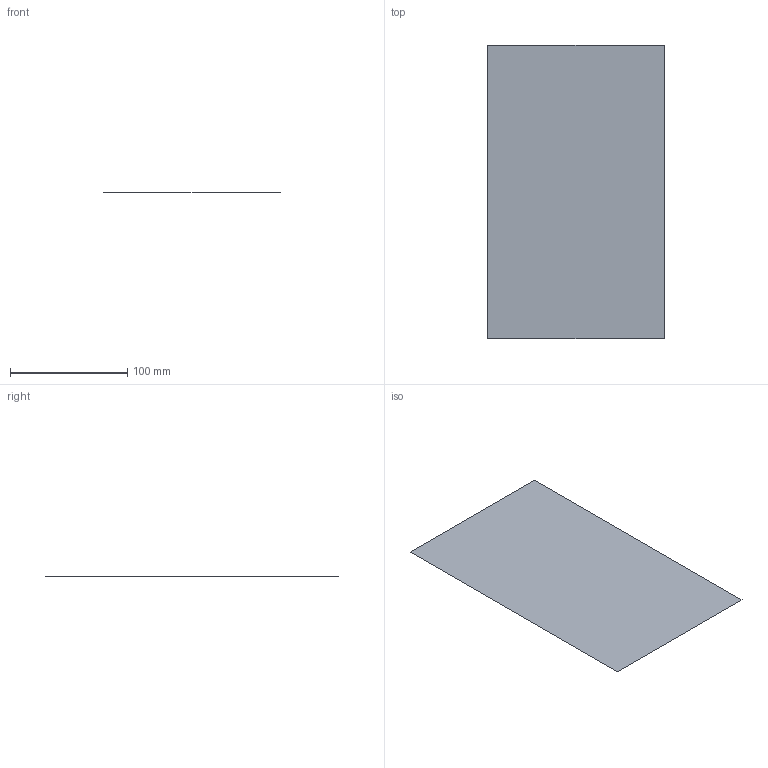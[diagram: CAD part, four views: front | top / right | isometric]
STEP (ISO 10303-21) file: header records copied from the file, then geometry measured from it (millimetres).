
FILE_DESCRIPTION (( 'STEP AP203' ), '1' );
FILE_NAME ('26.1.STEP', '2025-11-17T23:02:06', ( '' ), ( '' ), 'SwSTEP 2.0', 'SolidWorks 2025', '' );
FILE_SCHEMA (( 'CONFIG_CONTROL_DESIGN' ));
Length unit declared in the file: millimetre
Products named in the file (1): 26.1
Bounding box: 150 x 250 x 0 mm (x, y, z)
Surface area: 37500 mm2 (no closed solid volume)
Topology: 0 solids, 1 shells, 1 faces, 4 edges, 4 vertices
Faces by surface type: plane 1
Entity records: 125 total; most frequent: CARTESIAN_POINT 10, DIRECTION 8, PERSON_AND_ORGANIZATION 8, CC_DESIGN_PERSON_AND_ORGANIZATION_ASSIGNMENT 5, PERSON_AND_ORGANIZATION_ROLE 5, DATE_AND_TIME 5, LOCAL_TIME 5, COORDINATED_UNIVERSAL_TIME_OFFSET 5
